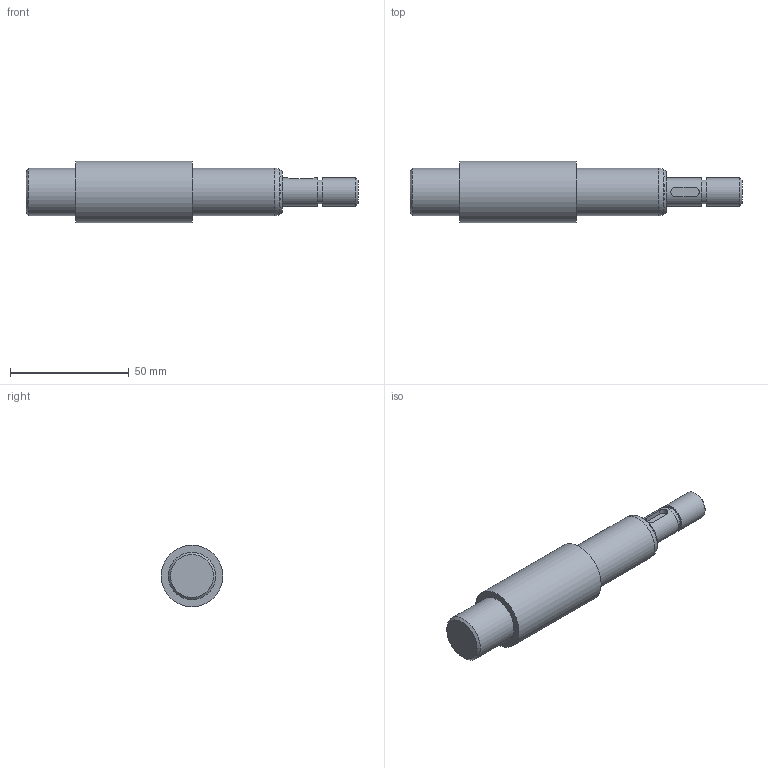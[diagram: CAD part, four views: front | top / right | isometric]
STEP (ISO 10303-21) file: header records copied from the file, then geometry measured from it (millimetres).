
FILE_DESCRIPTION(/* description */ (''),/* implementation_level */ '2;1');
FILE_NAME(/* name */ '',/* time_stamp */ '2024-08-02T13:49:25+09:00',/* author */ ('jhkim'),/* organization */ (''),/* preprocessor_version */ 'ST-DEVELOPER v20',/* originating_system */ 'Autodesk Inventor 2025',/* authorisation */ '');
FILE_SCHEMA (('AUTOMOTIVE_DESIGN { 1 0 10303 214 3 1 1 }'));
Length unit declared in the file: millimetre
Products named in the file (1): 축
Bounding box: 140 x 26 x 26 mm (x, y, z)
Volume: 47876.6 mm3; surface area: 9963.2 mm2
Topology: 1 solids, 1 shells, 23 faces, 47 edges, 32 vertices
Faces by surface type: plane 10, cylinder 8, cone 3, torus 2
Full cylindrical faces by diameter (mm): 10 x1, 12 x2, 20 x2, 26 x1
Entity records: 694 total; most frequent: CARTESIAN_POINT 139, DIRECTION 117, ORIENTED_EDGE 94, AXIS2_PLACEMENT_3D 50, EDGE_CURVE 47, VERTEX_POINT 32, EDGE_LOOP 29, CIRCLE 26
